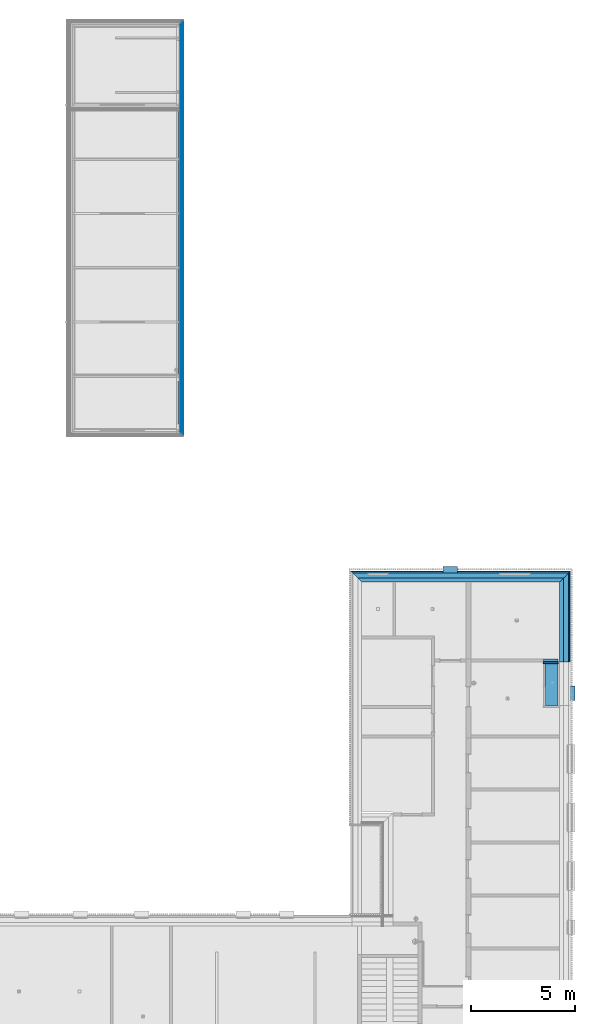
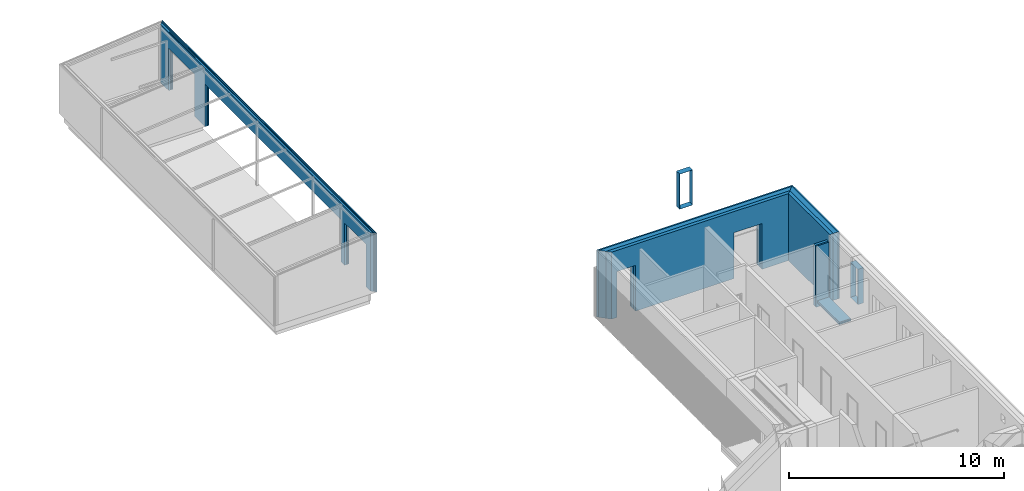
# One storey, part 35 of 112: 16 building element parts, 2 discrete accessories, 5 openings, 5 elements without a shape of their own.
"""IFC2X3 building model written with IfcOpenShell, lengths in millimetres."""

from ifc_helpers import new_model, entity, si_unit, converted_unit, derived_unit, money_unit, direction, frame, origin_with_axes, origin_2d_with_axis, place, context, subcontext, project, spatial, polyline, rectangle, outline, extrude, clip, halfspace, faceted_brep, source, transform, mapped, material, type_object, element, aggregate, save


model = new_model("IFC2X3")

# Units and contexts
model_context = context("Model", 3, precision=0.01, world=origin_with_axes(), true_north=direction((0.0, 1.0)))
body_context = subcontext(model_context, "Body", "Model", "MODEL_VIEW")
ifc_project = project(units=[si_unit("LENGTHUNIT", "METRE", prefix="MILLI"), si_unit("AREAUNIT", "SQUARE_METRE"), si_unit("VOLUMEUNIT", "CUBIC_METRE"), converted_unit("PLANEANGLEUNIT", "DEGREE", entity("IfcPlaneAngleMeasure", 0.0174532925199), si_unit("PLANEANGLEUNIT", "RADIAN"), dimensions=[0, 0, 0, 0, 0, 0, 0]), si_unit("SOLIDANGLEUNIT", "STERADIAN"), money_unit("EUR"), converted_unit("TIMEUNIT", "Year", entity("IfcTimeMeasure", 31556926.0), si_unit("TIMEUNIT", "SECOND"), dimensions=[0, 0, 1, 0, 0, 0, 0]), si_unit("MASSUNIT", "GRAM", prefix="KILO"), si_unit("THERMODYNAMICTEMPERATUREUNIT", "DEGREE_CELSIUS"), si_unit("LUMINOUSINTENSITYUNIT", "LUMEN"), si_unit("ENERGYUNIT", "JOULE", prefix="MEGA"), derived_unit("THERMALCONDUCTANCEUNIT", [(si_unit("POWERUNIT", "WATT"), 1), (si_unit("LENGTHUNIT", "METRE"), -1), (si_unit("THERMODYNAMICTEMPERATUREUNIT", "KELVIN"), -1)]), derived_unit("SPECIFICHEATCAPACITYUNIT", [(si_unit("ENERGYUNIT", "JOULE"), 1), (si_unit("MASSUNIT", "GRAM", prefix="KILO"), -1), (si_unit("THERMODYNAMICTEMPERATUREUNIT", "KELVIN"), -1)]), derived_unit("MASSDENSITYUNIT", [(si_unit("MASSUNIT", "GRAM", prefix="KILO"), 1), (si_unit("VOLUMEUNIT", "CUBIC_METRE"), -1)])], contexts=[model_context])

# Site, building, storey
site_placement = place(None, origin_with_axes())
site = spatial("IfcSite", under=ifc_project, at=site_placement, Name="Politse- ja Piirivalveameti ning Päästeameti ühishoone", CompositionType="ELEMENT")
building_placement = place(site_placement, origin_with_axes())
building = spatial("IfcBuilding", under=site, at=building_placement, Name="Politse- ja Piirivalveameti ning Päästeameti ühishoone", CompositionType="ELEMENT")
storey_placement = place(building_placement, origin_with_axes())
storey = spatial("IfcBuildingStorey", under=building, at=storey_placement, Name="Esimene korrus", CompositionType="ELEMENT", Elevation=0.0)

# Discrete accessories
ifc_material_1 = material(Name="SV-01_Krohv - Kips")
discrete_accessory_type = type_object("IfcDiscreteAccessoryType", Name="Architrave 01 23")
shared_shape = source(origin_with_axes(), body_context, "Body", "Brep", [
    faceted_brep([(-350.0, 0.0, -10.0), (350.0, 0.0, -10.0), (350.0, -300.182356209, -10.0), (-350.0, -300.182356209, -10.0), (-340.0, 0.0, 0.0), (340.0, 0.0, 0.0), (340.0, -300.182356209, 0.0), (-340.0, -300.182356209, 0.0)], [[[0, 1, 2, 3]], [[0, 4, 5, 1]], [[1, 5, 6, 2]], [[3, 2, 6, 7]], [[4, 0, 3, 7]], [[5, 4, 7, 6]]]),
    faceted_brep([(350.0, 0.0, -10.0), (350.0, 0.0, 1990.0), (350.0, -300.182356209, 1990.0), (350.0, -300.182356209, -10.0), (340.0, 0.0, 0.0), (340.0, 0.0, 1980.0), (340.0, -300.182356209, 1980.0), (340.0, -300.182356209, 0.0)], [[[0, 1, 2, 3]], [[0, 4, 5, 1]], [[1, 5, 6, 2]], [[3, 2, 6, 7]], [[4, 0, 3, 7]], [[5, 4, 7, 6]]]),
    faceted_brep([(350.0, 0.0, 1990.0), (-350.0, 0.0, 1990.0), (-350.0, -300.182356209, 1990.0), (350.0, -300.182356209, 1990.0), (340.0, 0.0, 1980.0), (-340.0, 0.0, 1980.0), (-340.0, -300.182356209, 1980.0), (340.0, -300.182356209, 1980.0)], [[[0, 1, 2, 3]], [[0, 4, 5, 1]], [[1, 5, 6, 2]], [[3, 2, 6, 7]], [[4, 0, 3, 7]], [[5, 4, 7, 6]]]),
    faceted_brep([(-350.0, 0.0, 1990.0), (-350.0, 0.0, -10.0), (-350.0, -300.182356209, -10.0), (-350.0, -300.182356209, 1990.0), (-340.0, 0.0, 1980.0), (-340.0, 0.0, 0.0), (-340.0, -300.182356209, 0.0), (-340.0, -300.182356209, 1980.0)], [[[0, 1, 2, 3]], [[0, 4, 5, 1]], [[1, 5, 6, 2]], [[3, 2, 6, 7]], [[4, 0, 3, 7]], [[5, 4, 7, 6]]]),
])
for number, where, z_axis, x_axis, name in (
    (1, (70090.5664257, 32150.0702441, 810.0), (0.0, 0.0, 1.0), (0.0, 1.0, 0.0), "AKNARAAM 01"),
    (2, (64421.0631662, 37929.9521318, 4610.0), (0.0, 0.0, 1.0), (-1.0, 0.0, 0.0), "AKNARAAM 01"),
):
    element("IfcDiscreteAccessory", number, at=place(storey_placement, frame(where, z_axis=z_axis, x_axis=x_axis)), inside=storey, type_object=discrete_accessory_type, material=ifc_material_1, Name=name, context=body_context, shape_type="MappedRepresentation", body=[
        mapped(shared_shape, transform((0.0, 0.0, 0.0))),
    ])

# Wall, building element parts
wall_type_1 = type_object("IfcWallType", Name="VS-01_välissein 510", PredefinedType="NOTDEFINED")
wall_1_placement = place(storey_placement, frame((69660.5664257, 37499.9521318, 0.0), z_axis=(0.0, 0.0, 1.0), x_axis=(0.0, -1.0, 0.0)))
wall_1 = element("IfcWall", 3, at=wall_1_placement, inside=storey, type_object=wall_type_1, Name="VS-01")
ifc_material_2 = material(Name="KON-04_Betoon - Konstuktsioon")
building_element_part_1_placement = place(wall_1_placement, origin_with_axes())
building_element_part_1 = element("IfcBuildingElementPart", 4, at=building_element_part_1_placement, material=ifc_material_2, Name="KON-04_Betoon - Konstuktsioon", context=body_context, shape_type="SweptSolid", body=[
    extrude(outline(polyline([(0.0, 0.0), (3839.88188769, 0.0), (3839.88188769, 180.0), (-180.0, 180.0), (0.0, 0.0)])), origin_with_axes(), (0.0, 0.0, 1.0), 3800.0),
])
ifc_material_3 = material(Name="SOJ-06_Soojustus - Plastik Kõva")
building_element_part_2_placement = place(wall_1_placement, origin_with_axes())
building_element_part_2 = element("IfcBuildingElementPart", 5, at=building_element_part_2_placement, material=ifc_material_3, Name="SOJ-06_Soojustus - Plastik Kõva", context=body_context, shape_type="SweptSolid", body=[
    extrude(outline(polyline([(-180.0, 180.0), (3839.88188769, 180.0), (3839.88188769, 430.0), (-430.0, 430.0), (-180.0, 180.0)])), origin_with_axes(), (0.0, 0.0, 1.0), 3800.0),
])
building_element_part_3_placement = place(wall_1_placement, origin_with_axes())
building_element_part_3 = element("IfcBuildingElementPart", 6, at=building_element_part_3_placement, material=ifc_material_2, Name="KON-04_Betoon - Konstuktsioon", context=body_context, shape_type="SweptSolid", body=[
    extrude(outline(polyline([(-430.0, 430.0), (3839.88188769, 430.0), (3839.88188769, 510.0), (-510.0, 510.0), (-430.0, 430.0)])), origin_with_axes(), (0.0, 0.0, 1.0), 3800.0),
])
aggregate(wall_1, [building_element_part_1, building_element_part_2, building_element_part_3])

wall_type_2 = type_object("IfcWallType", Name="SS-11 vent õhuvõtt 220", PredefinedType="NOTDEFINED")
wall_2_placement = place(storey_placement, frame((69660.5664257, 33580.0702441, 0.0), z_axis=(0.0, 0.0, 1.0), x_axis=(-1.0, 0.0, 0.0)))
wall_2 = element("IfcWall", 7, at=wall_2_placement, inside=storey, type_object=wall_type_2, Name="SS-11")
ifc_material_4 = material(Name="SOJ-02_Soojustus - Fiiber Kõva")
building_element_part_4_placement = place(wall_2_placement, origin_with_axes())
building_element_part_4 = element("IfcBuildingElementPart", 8, at=building_element_part_4_placement, material=ifc_material_4, Name="SOJ-02_Soojustus - Fiiber Kõva", context=body_context, shape_type="SweptSolid", body=[
    extrude(outline(polyline([(80.0000053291, -80.0), (780.143233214, -80.0), (780.143233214, 0.0), (80.0000053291, 0.0), (80.0000053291, -80.0)])), origin_with_axes(), (0.0, 0.0, 1.0), 3460.0),
])
ifc_material_5 = material(Name="KON-05_Betoon Plokk - Konstuktsioon")
building_element_part_5_placement = place(wall_2_placement, origin_with_axes())
building_element_part_5 = element("IfcBuildingElementPart", 9, at=building_element_part_5_placement, material=ifc_material_5, Name="KON-05_Betoon Plokk - Konstuktsioon", context=body_context, shape_type="SweptSolid", body=[
    extrude(outline(polyline([(80.0000053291, -220.0), (780.143233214, -220.0), (780.143233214, -80.0), (80.0000053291, -80.0), (80.0000053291, -220.0)])), origin_with_axes(), (0.0, 0.0, 1.0), 3460.0),
])
aggregate(wall_2, [building_element_part_4, building_element_part_5])

# Wall, openings, building element parts
wall_3_placement = place(storey_placement, frame((69660.5664257, 37499.9521318, 0.0), z_axis=(0.0, 0.0, 1.0), x_axis=(-1.0, 0.0, 0.0)))
wall_3 = element("IfcWall", 10, at=wall_3_placement, inside=storey, type_object=wall_type_1, Name="VS-01")
opening_1_placement = place(wall_3_placement, frame((2160.47469608, 0.0, 0.0), z_axis=(0.0, 0.0, 1.0), x_axis=(1.0, 0.0, 0.0)))
element("IfcOpeningElement", 11, at=opening_1_placement, cuts=wall_3, Name="VU-01", context=body_context, shape_type="SweptSolid", body=[
    extrude(rectangle(XDim=1500.0, YDim=2600.0, at=origin_2d_with_axis()), frame((0.0, -430.0, 1300.0), z_axis=(0.0, -1.0, 0.0), x_axis=(-1.0, 0.0, 0.0)), (0.0, 0.0, -1.0), 940.0),
    extrude(rectangle(XDim=1500.0, YDim=2600.0, at=origin_2d_with_axis()), frame((0.0, -430.0, 1300.0), z_axis=(0.0, 1.0, 0.0), x_axis=(-1.0, 0.0, 0.0)), (0.0, 0.0, -1.0), 590.0),
])
opening_2_placement = place(wall_3_placement, frame((8710.42417731, 0.0, 0.0), z_axis=(0.0, 0.0, 1.0), x_axis=(1.0, 0.0, 0.0)))
element("IfcOpeningElement", 12, at=opening_2_placement, cuts=wall_3, Name="VU-06", context=body_context, shape_type="SweptSolid", body=[
    extrude(rectangle(XDim=1000.0, YDim=2600.0, at=origin_2d_with_axis()), frame((0.0, -430.0, 1300.0), z_axis=(0.0, 1.0, 0.0), x_axis=(1.0, 0.0, 0.0)), (0.0, 0.0, 1.0), 940.0),
    extrude(rectangle(XDim=1000.0, YDim=2600.0, at=origin_2d_with_axis()), frame((0.0, -430.0, 1300.0), z_axis=(0.0, -1.0, 0.0), x_axis=(1.0, 0.0, 0.0)), (0.0, 0.0, 1.0), 590.0),
])
building_element_part_6_placement = place(wall_3_placement, origin_with_axes())
building_element_part_6 = element("IfcBuildingElementPart", 13, at=building_element_part_6_placement, material=ifc_material_2, Name="KON-04_Betoon - Konstuktsioon", context=body_context, shape_type="SweptSolid", body=[
    extrude(outline(polyline([(-180.0, -180.0), (9680.01451389, -180.0), (9500.01451389, 0.0), (0.0, 0.0), (-180.0, -180.0)])), origin_with_axes(), (0.0, 0.0, 1.0), 3800.0),
])
building_element_part_7_placement = place(wall_3_placement, origin_with_axes())
building_element_part_7 = element("IfcBuildingElementPart", 14, at=building_element_part_7_placement, material=ifc_material_3, Name="SOJ-06_Soojustus - Plastik Kõva", context=body_context, shape_type="SweptSolid", body=[
    extrude(outline(polyline([(-430.0, -430.0), (9930.01451389, -430.0), (9680.01451389, -180.0), (-180.0, -180.0), (-430.0, -430.0)])), origin_with_axes(), (0.0, 0.0, 1.0), 3800.0),
])
building_element_part_8_placement = place(wall_3_placement, origin_with_axes())
building_element_part_8 = element("IfcBuildingElementPart", 15, at=building_element_part_8_placement, material=ifc_material_2, Name="KON-04_Betoon - Konstuktsioon", context=body_context, shape_type="SweptSolid", body=[
    extrude(outline(polyline([(-510.0, -510.0), (10010.0145139, -510.0), (9930.01451389, -430.0), (-430.0, -430.0), (-510.0, -510.0)])), origin_with_axes(), (0.0, 0.0, 1.0), 3800.0),
])
aggregate(wall_3, [building_element_part_6, building_element_part_7, building_element_part_8])

wall_type_3 = type_object("IfcWallType", Name="VS-41_Välissein PPA varjualune 225", PredefinedType="NOTDEFINED")
wall_4_placement = place(storey_placement, frame((51391.8237405, 64199.8510263, 300.0), z_axis=(0.0, 0.0, 1.0), x_axis=(0.0, -1.0, 0.0)))
wall_4 = element("IfcWall", 16, at=wall_4_placement, inside=storey, type_object=wall_type_3, Name="VS-41")
opening_3_placement = place(wall_4_placement, frame((1950.0000059, 0.0, -300.0), z_axis=(0.0, 0.0, 1.0), x_axis=(1.0, 0.0, 0.0)))
element("IfcOpeningElement", 17, at=opening_3_placement, cuts=wall_4, Name="TV-41", context=body_context, shape_type="SweptSolid", body=[
    extrude(rectangle(XDim=2400.0, YDim=2700.0, at=origin_2d_with_axis()), frame((0.0, 100.0, 1350.0), z_axis=(0.0, -1.0, 0.0), x_axis=(1.0, 0.0, 0.0)), (0.0, 0.0, -1.0), 350.0),
    extrude(rectangle(XDim=2400.0, YDim=2700.0, at=origin_2d_with_axis()), frame((0.0, 100.0, 1350.0), z_axis=(0.0, 1.0, 0.0), x_axis=(1.0, 0.0, 0.0)), (0.0, 0.0, -1.0), 325.0),
    extrude(outline(polyline([(-1200.0, 5400.0), (-1200.0, 2700.0), (1200.0, 2700.0), (1200.0, 5400.0), (-1200.0, 5400.0)])), frame((0.0, 50.0, 0.0), z_axis=(0.0, -1.0, 0.0), x_axis=(1.0, 0.0, 0.0)), (0.0, 0.0, 1.0), 45.0),
])
opening_4_placement = place(wall_4_placement, frame((10437.4999762, 0.0, -300.0), z_axis=(0.0, 0.0, 1.0), x_axis=(1.0, 0.0, 0.0)))
element("IfcOpeningElement", 18, at=opening_4_placement, cuts=wall_4, Name="TÜHI AVA", context=body_context, shape_type="SweptSolid", body=[
    extrude(rectangle(XDim=12625.0000477, YDim=2700.10652938, at=origin_2d_with_axis()), frame((0.0, -225.0, 1350.05326469), z_axis=(0.0, 1.0, 0.0), x_axis=(-1.0, 0.0, 0.0)), (0.0, 0.0, 1.0), 675.0),
])
opening_5_placement = place(wall_4_placement, frame((18099.5647308, 0.0, -300.0), z_axis=(0.0, 0.0, 1.0), x_axis=(1.0, 0.0, 0.0)))
element("IfcOpeningElement", 19, at=opening_5_placement, cuts=wall_4, Name="TV-42", context=body_context, shape_type="SweptSolid", body=[
    extrude(rectangle(XDim=2000.0, YDim=2700.0, at=origin_2d_with_axis()), frame((0.0, -225.0, 1350.0), z_axis=(0.0, 1.0, 0.0), x_axis=(-1.0, 0.0, 0.0)), (0.0, 0.0, 1.0), 675.0),
    extrude(outline(polyline([(-1000.0, 5400.0), (-1000.0, 2700.0), (1000.0, 2700.0), (1000.0, 5400.0), (-1000.0, 5400.0)])), frame((0.0, 130.0, 0.0), z_axis=(0.0, 1.0, 0.0), x_axis=(-1.0, 0.0, 0.0)), (0.0, 0.0, 1.0), 45.0),
])
ifc_material_6 = material(Name="Õhkvahe")
building_element_part_9_placement = place(wall_4_placement, origin_with_axes())
building_element_part_9 = element("IfcBuildingElementPart", 20, at=building_element_part_9_placement, material=ifc_material_6, Name="Õhkvahe", context=body_context, shape_type="Clipping", body=[
    clip(extrude(outline(polyline([(0.0, 0.0), (19500.0, 0.0), (19600.0, 100.0), (-100.0, 100.0), (0.0, 0.0)])), origin_with_axes(), (0.0, 0.0, 1.0), 3500.0), halfspace(frame((0.0, -327.469865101, 3280.82495279), z_axis=(0.0, 0.0993197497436, -0.995055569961), x_axis=(0.0, 0.995055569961, 0.0993197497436)), True)),
])
ifc_material_7 = material(Name="Vineer")
building_element_part_10_placement = place(wall_4_placement, origin_with_axes())
building_element_part_10 = element("IfcBuildingElementPart", 21, at=building_element_part_10_placement, material=ifc_material_7, Name="Vineer", context=body_context, shape_type="Clipping", body=[
    clip(extrude(outline(polyline([(-100.0, 100.0), (19600.0, 100.0), (19615.0, 115.0), (-115.0, 115.0), (-100.0, 100.0)])), origin_with_axes(), (0.0, 0.0, 1.0), 3500.0), halfspace(frame((0.0, -327.469865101, 3280.82495279), z_axis=(0.0, 0.0993197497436, -0.995055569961), x_axis=(0.0, 0.995055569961, 0.0993197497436)), True)),
])
building_element_part_11_placement = place(wall_4_placement, origin_with_axes())
building_element_part_11 = element("IfcBuildingElementPart", 22, at=building_element_part_11_placement, material=ifc_material_6, Name="Õhkvahe", context=body_context, shape_type="Clipping", body=[
    clip(extrude(outline(polyline([(-115.0, 115.0), (19615.0, 115.0), (19630.0, 130.0), (-130.0, 130.0), (-115.0, 115.0)])), origin_with_axes(), (0.0, 0.0, 1.0), 3500.0), halfspace(frame((0.0, -327.469865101, 3280.82495279), z_axis=(0.0, 0.0993197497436, -0.995055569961), x_axis=(0.0, 0.995055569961, 0.0993197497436)), True)),
])
building_element_part_12_placement = place(wall_4_placement, origin_with_axes())
building_element_part_12 = element("IfcBuildingElementPart", 23, at=building_element_part_12_placement, material=ifc_material_6, Name="Õhkvahe", context=body_context, shape_type="Clipping", body=[
    clip(extrude(outline(polyline([(-130.0, 130.0), (19630.0, 130.0), (19680.0, 180.0), (-180.0, 180.0), (-130.0, 130.0)])), origin_with_axes(), (0.0, 0.0, 1.0), 3500.0), halfspace(frame((0.0, -327.469865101, 3280.82495279), z_axis=(0.0, 0.0993197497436, -0.995055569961), x_axis=(0.0, 0.995055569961, 0.0993197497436)), True)),
])
ifc_material_8 = material(Name="GENEERILINE - VÄLINE VOODER")
building_element_part_13_placement = place(wall_4_placement, origin_with_axes())
building_element_part_13 = element("IfcBuildingElementPart", 24, at=building_element_part_13_placement, material=ifc_material_8, Name="GENEERILINE - VÄLINE VOODER", context=body_context, shape_type="Clipping", body=[
    clip(extrude(outline(polyline([(-180.0, 180.0), (19680.0, 180.0), (19725.0, 225.0), (-225.0, 225.0), (-180.0, 180.0)])), origin_with_axes(), (0.0, 0.0, 1.0), 3500.0), halfspace(frame((0.0, -327.469865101, 3280.82495279), z_axis=(0.0, 0.0993197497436, -0.995055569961), x_axis=(0.0, 0.995055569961, 0.0993197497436)), True)),
])
aggregate(wall_4, [building_element_part_9, building_element_part_10, building_element_part_11, building_element_part_12, building_element_part_13])

# Slab, building element parts
slab_type = type_object("IfcSlabType", Name="PP-05_Põrand pinnasel õhuhaare 997", PredefinedType="NOTDEFINED")
slab_placement = place(storey_placement, frame((69580.5664204, 31560.1986087, 347.0), z_axis=(0.0, 0.0, 1.0), x_axis=(1.0, 0.0, 0.0)))
slab = element("IfcSlab", 25, at=slab_placement, inside=storey, type_object=slab_type, Name="PP-05", PredefinedType="NOTDEFINED")
building_element_part_14_placement = place(slab_placement, origin_with_axes())
building_element_part_14 = element("IfcBuildingElementPart", 26, at=building_element_part_14_placement, material=ifc_material_6, Name="Õhkvahe", context=body_context, shape_type="SweptSolid", body=[
    extrude(outline(polyline([(0.0, 0.0), (0.0, 2019.87163543), (-620.143227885, 2019.87163543), (-620.143227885, 0.0), (0.0, 0.0)])), frame((0.0, 0.0, -147.0), z_axis=(0.0, 0.0, 1.0), x_axis=(1.0, 0.0, 0.0)), (0.0, 0.0, 1.0), 32.0),
])
building_element_part_15_placement = place(slab_placement, origin_with_axes())
building_element_part_15 = element("IfcBuildingElementPart", 27, at=building_element_part_15_placement, material=ifc_material_6, Name="Õhkvahe", context=body_context, shape_type="SweptSolid", body=[
    extrude(outline(polyline([(0.0, 0.0), (0.0, 2019.87163543), (-620.143227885, 2019.87163543), (-620.143227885, 0.0), (0.0, 0.0)])), frame((0.0, 0.0, -115.0), z_axis=(0.0, 0.0, 1.0), x_axis=(1.0, 0.0, 0.0)), (0.0, 0.0, 1.0), 100.0),
])
building_element_part_16_placement = place(slab_placement, origin_with_axes())
building_element_part_16 = element("IfcBuildingElementPart", 28, at=building_element_part_16_placement, material=ifc_material_7, Name="Vineer", context=body_context, shape_type="SweptSolid", body=[
    extrude(outline(polyline([(0.0, 0.0), (0.0, 2019.87163543), (-620.143227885, 2019.87163543), (-620.143227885, 0.0), (0.0, 0.0)])), frame((0.0, 0.0, -15.0), z_axis=(0.0, 0.0, 1.0), x_axis=(1.0, 0.0, 0.0)), (0.0, 0.0, 1.0), 15.0),
])
aggregate(slab, [building_element_part_14, building_element_part_15, building_element_part_16])

save(model, "model.ifc")
